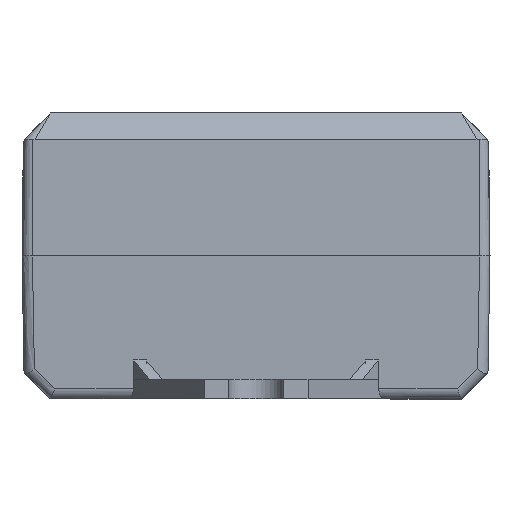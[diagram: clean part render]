
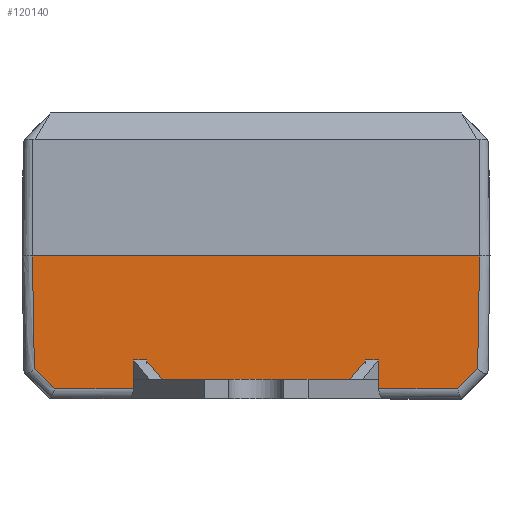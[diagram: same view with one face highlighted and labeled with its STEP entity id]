
A CAD part, front view. The second image highlights one B-rep face of the part: STEP entity #120140.
In plain terms, the highlighted planar face has unit normal (0, -1, -0.018).
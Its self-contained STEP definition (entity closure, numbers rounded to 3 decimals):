
#30870=CARTESIAN_POINT('',(34.7,0.,
0.));
#30880=VERTEX_POINT('',#30870);
#30910=CARTESIAN_POINT('',(0.,0.,0.)
);
#30920=DIRECTION('',(1.,0.,0.));
#30930=VECTOR('',#30920,1.);
#30940=LINE('',#30910,#30930);
#30950=CARTESIAN_POINT('',(0.3,0.,
0.));
#30960=VERTEX_POINT('',#30950);
#30970=EDGE_CURVE('',#30960,#30880,#30940,.T.);
#114190=CARTESIAN_POINT('',(34.549,0.151,
-8.673));
#114200=VERTEX_POINT('',#114190);
#114230=CARTESIAN_POINT('',(34.7,0.,
0.));
#114240=DIRECTION('',(-0.017,0.017,
-1.));
#114250=VECTOR('',#114240,1.);
#114260=LINE('',#114230,#114250);
#114270=EDGE_CURVE('',#30880,#114200,#114260,.T.);
#115170=CARTESIAN_POINT('',(32.981,0.178,
-10.214));
#115180=VERTEX_POINT('',#115170);
#115210=CARTESIAN_POINT('',(34.549,0.151,
-8.673));
#115220=DIRECTION('',(-0.713,0.012,
-0.701));
#115230=VECTOR('',#115220,1.);
#115240=LINE('',#115210,#115230);
#115250=EDGE_CURVE('',#114200,#115180,#115240,.T.);
#118540=CARTESIAN_POINT('',(26.943,0.178,
-10.214));
#118550=VERTEX_POINT('',#118540);
#118720=CARTESIAN_POINT('',(26.936,0.166,
-9.5));
#118730=VERTEX_POINT('',#118720);
#118760=CARTESIAN_POINT('',(26.943,0.178,
-10.214));
#118770=DIRECTION('',(-0.01,-0.017,
1.));
#118780=VECTOR('',#118770,1.);
#118790=LINE('',#118760,#118780);
#118800=EDGE_CURVE('',#118550,#118730,#118790,.T.);
#118970=CARTESIAN_POINT('',(26.943,0.178,
-10.214));
#118980=DIRECTION('',(1.,0.,0.));
#118990=VECTOR('',#118980,1.);
#119000=LINE('',#118970,#118990);
#119010=EDGE_CURVE('',#118550,#115180,#119000,.T.);
#119160=CARTESIAN_POINT('',(13.5,0.,
0.));
#119170=DIRECTION('',(0.,1.,0.017));
#119180=DIRECTION('',(0.,0.017,-1.));
#119190=AXIS2_PLACEMENT_3D('',#119160,#119170,#119180);
#119200=PLANE('',#119190);
#119210=CARTESIAN_POINT('',(2.019,0.178,
-10.214));
#119220=DIRECTION('',(1.,0.,0.));
#119230=VECTOR('',#119220,1.);
#119240=LINE('',#119210,#119230);
#119250=CARTESIAN_POINT('',(2.019,0.178,
-10.214));
#119260=VERTEX_POINT('',#119250);
#119270=CARTESIAN_POINT('',(8.057,0.178,
-10.214));
#119280=VERTEX_POINT('',#119270);
#119290=EDGE_CURVE('',#119260,#119280,#119240,.T.);
#119300=ORIENTED_EDGE('',*,*,#119290,.T.);
#119310=CARTESIAN_POINT('',(2.019,0.178,
-10.214));
#119320=DIRECTION('',(-0.713,-0.012,
0.701));
#119330=VECTOR('',#119320,1.);
#119340=LINE('',#119310,#119330);
#119350=CARTESIAN_POINT('',(0.451,0.151,
-8.673));
#119360=VERTEX_POINT('',#119350);
#119370=EDGE_CURVE('',#119260,#119360,#119340,.T.);
#119380=ORIENTED_EDGE('',*,*,#119370,.F.);
#119390=CARTESIAN_POINT('',(0.451,0.151,
-8.673));
#119400=DIRECTION('',(-0.017,-0.017,
1.));
#119410=VECTOR('',#119400,1.);
#119420=LINE('',#119390,#119410);
#119430=EDGE_CURVE('',#119360,#30960,#119420,.T.);
#119440=ORIENTED_EDGE('',*,*,#119430,.F.);
#119450=ORIENTED_EDGE('',*,*,#30970,.F.);
#119460=ORIENTED_EDGE('',*,*,#114270,.F.);
#119470=ORIENTED_EDGE('',*,*,#115250,.F.);
#119480=ORIENTED_EDGE('',*,*,#119010,.T.);
#119490=ORIENTED_EDGE('',*,*,#118800,.F.);
#119500=CARTESIAN_POINT('',(26.936,0.166,
-9.5));
#119510=DIRECTION('',(-0.03,-0.017,
0.999));
#119520=VECTOR('',#119510,1.);
#119530=LINE('',#119500,#119520);
#119540=CARTESIAN_POINT('',(26.891,0.14,
-8.));
#119550=VERTEX_POINT('',#119540);
#119560=EDGE_CURVE('',#118730,#119550,#119530,.T.);
#119570=ORIENTED_EDGE('',*,*,#119560,.F.);
#119580=CARTESIAN_POINT('',(26.891,0.14,
-8.));
#119590=DIRECTION('',(-1.,0.,0.));
#119600=VECTOR('',#119590,1.);
#119610=LINE('',#119580,#119600);
#119620=CARTESIAN_POINT('',(25.951,0.14,
-8.));
#119630=VERTEX_POINT('',#119620);
#119640=EDGE_CURVE('',#119550,#119630,#119610,.T.);
#119650=ORIENTED_EDGE('',*,*,#119640,.F.);
#119660=CARTESIAN_POINT('',(25.936,0.166,
-9.5));
#119670=DIRECTION('',(0.01,-0.017,
1.));
#119680=VECTOR('',#119670,1.);
#119690=LINE('',#119660,#119680);
#119700=CARTESIAN_POINT('',(25.936,0.166,
-9.5));
#119710=VERTEX_POINT('',#119700);
#119720=EDGE_CURVE('',#119710,#119630,#119690,.T.);
#119730=ORIENTED_EDGE('',*,*,#119720,.T.);
#119740=CARTESIAN_POINT('',(25.936,0.166,
-9.5));
#119750=DIRECTION('',(-1.,0.,0.));
#119760=VECTOR('',#119750,1.);
#119770=LINE('',#119740,#119760);
#119780=CARTESIAN_POINT('',(9.064,0.166,
-9.5));
#119790=VERTEX_POINT('',#119780);
#119800=EDGE_CURVE('',#119710,#119790,#119770,.T.);
#119810=ORIENTED_EDGE('',*,*,#119800,.F.);
#119820=CARTESIAN_POINT('',(9.064,0.166,
-9.5));
#119830=DIRECTION('',(-0.01,-0.017,
1.));
#119840=VECTOR('',#119830,1.);
#119850=LINE('',#119820,#119840);
#119860=CARTESIAN_POINT('',(9.049,0.14,
-8.));
#119870=VERTEX_POINT('',#119860);
#119880=EDGE_CURVE('',#119790,#119870,#119850,.T.);
#119890=ORIENTED_EDGE('',*,*,#119880,.F.);
#119900=CARTESIAN_POINT('',(9.049,0.14,
-8.));
#119910=DIRECTION('',(-1.,0.,0.));
#119920=VECTOR('',#119910,1.);
#119930=LINE('',#119900,#119920);
#119940=CARTESIAN_POINT('',(8.109,0.14,
-8.));
#119950=VERTEX_POINT('',#119940);
#119960=EDGE_CURVE('',#119870,#119950,#119930,.T.);
#119970=ORIENTED_EDGE('',*,*,#119960,.F.);
#119980=CARTESIAN_POINT('',(8.109,0.14,
-8.));
#119990=DIRECTION('',(-0.03,0.017,
-0.999));
#120000=VECTOR('',#119990,1.);
#120010=LINE('',#119980,#120000);
#120020=CARTESIAN_POINT('',(8.064,0.166,
-9.5));
#120030=VERTEX_POINT('',#120020);
#120040=EDGE_CURVE('',#119950,#120030,#120010,.T.);
#120050=ORIENTED_EDGE('',*,*,#120040,.F.);
#120060=CARTESIAN_POINT('',(8.057,0.178,
-10.214));
#120070=DIRECTION('',(0.01,-0.017,
1.));
#120080=VECTOR('',#120070,1.);
#120090=LINE('',#120060,#120080);
#120100=EDGE_CURVE('',#119280,#120030,#120090,.T.);
#120110=ORIENTED_EDGE('',*,*,#120100,.T.);
#120120=EDGE_LOOP('',(#120110,#120050,#119970,#119890,#119810,#119730,
#119650,#119570,#119490,#119480,#119470,#119460,#119450,#119440,#119380,
#119300));
#120130=FACE_OUTER_BOUND('',#120120,.T.);
#120140=ADVANCED_FACE('',(#120130),#119200,.F.);
